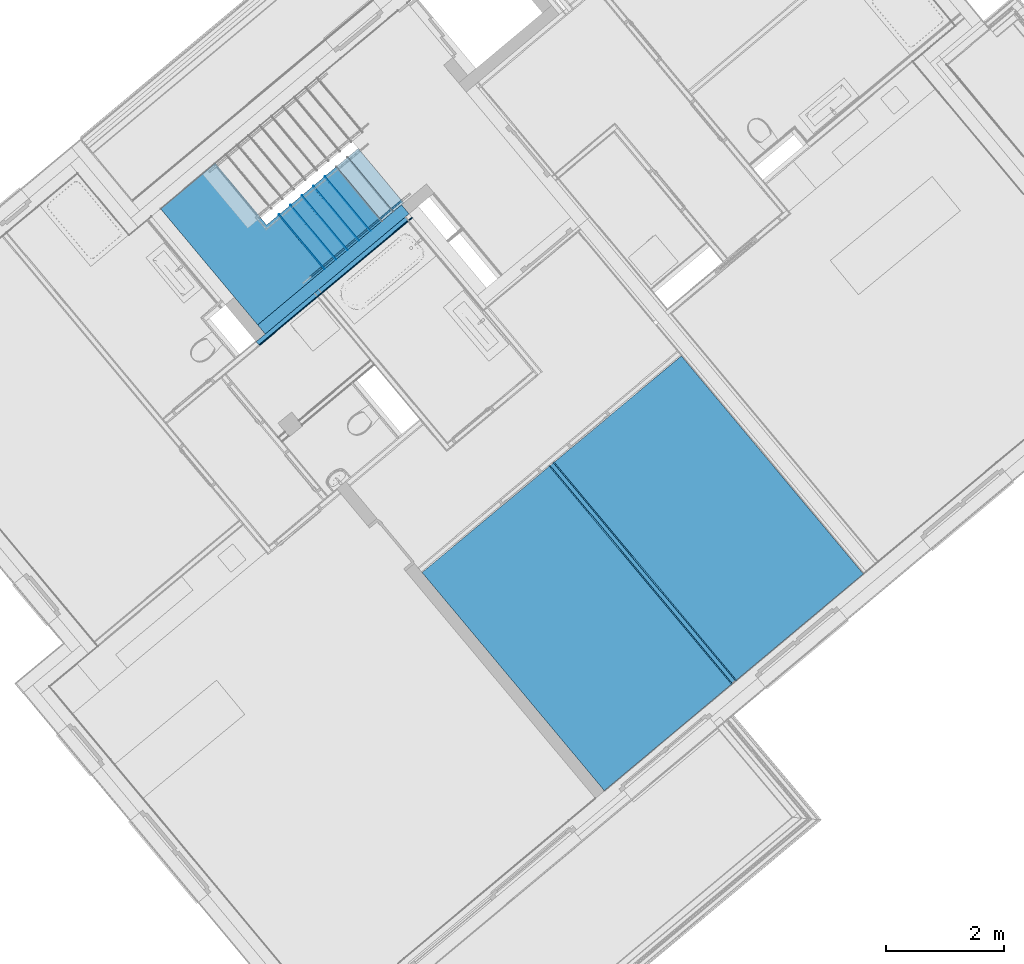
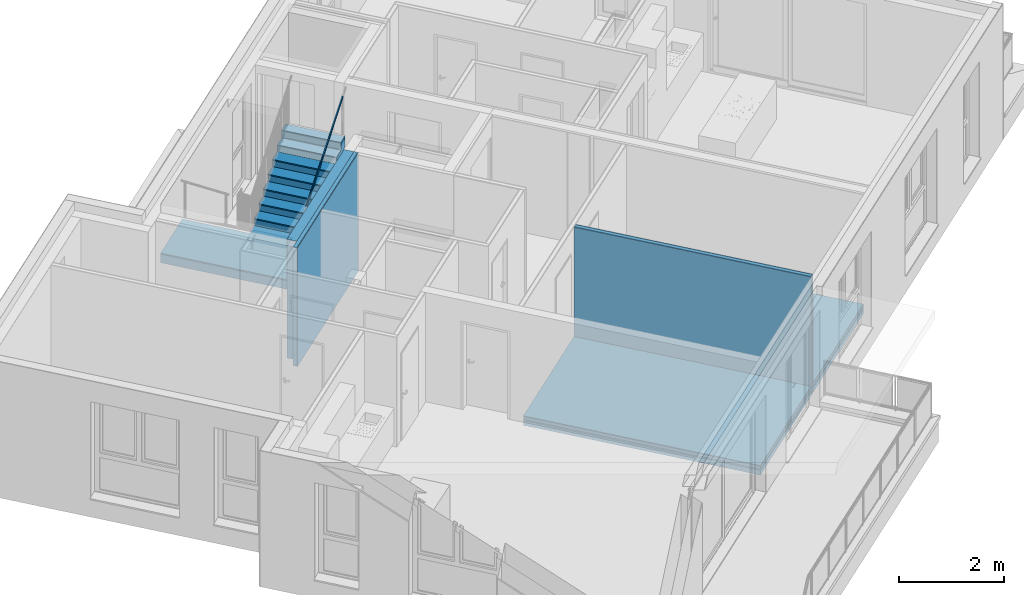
# One storey, part 25 of 50: 28 building element parts, 6 elements without a shape of their own.
"""IFC4 building model written with IfcOpenShell, lengths in metres."""

from ifc_helpers import new_model, entity, si_unit, converted_unit, derived_unit, direction, frame, origin_with_axes, place, context, subcontext, project, spatial, polygons, material, type_object, element, aggregate, save


model = new_model("IFC4")

# Units and contexts
model_context = context("Model", 3, precision=1e-05, world=origin_with_axes(), true_north=direction((0.0, 1.0)))
body_context = subcontext(model_context, "Body", "Model", "MODEL_VIEW")
ifc_project = project(units=[si_unit("LENGTHUNIT", "METRE"), si_unit("AREAUNIT", "SQUARE_METRE"), si_unit("VOLUMEUNIT", "CUBIC_METRE"), converted_unit("PLANEANGLEUNIT", "DEGREE", entity("IfcPlaneAngleMeasure", 0.0174532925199), si_unit("PLANEANGLEUNIT", "RADIAN"), dimensions=[0, 0, 0, 0, 0, 0, 0]), converted_unit("TIMEUNIT", "Year", entity("IfcTimeMeasure", 31556926.0), si_unit("TIMEUNIT", "SECOND"), dimensions=[0, 0, 1, 0, 0, 0, 0]), si_unit("MASSUNIT", "GRAM", prefix="KILO"), si_unit("THERMODYNAMICTEMPERATUREUNIT", "DEGREE_CELSIUS"), si_unit("LUMINOUSINTENSITYUNIT", "LUMEN"), si_unit("ENERGYUNIT", "JOULE", prefix="MEGA"), derived_unit("THERMALCONDUCTANCEUNIT", [(si_unit("POWERUNIT", "WATT"), 1), (si_unit("LENGTHUNIT", "METRE"), -1), (si_unit("THERMODYNAMICTEMPERATUREUNIT", "KELVIN"), -1)]), derived_unit("SPECIFICHEATCAPACITYUNIT", [(si_unit("ENERGYUNIT", "JOULE"), 1), (si_unit("MASSUNIT", "GRAM", prefix="KILO"), -1), (si_unit("THERMODYNAMICTEMPERATUREUNIT", "KELVIN"), -1)]), derived_unit("MASSDENSITYUNIT", [(si_unit("MASSUNIT", "GRAM", prefix="KILO"), 1), (si_unit("VOLUMEUNIT", "CUBIC_METRE"), -1)])], contexts=[model_context])

# Site, building, storey
site_placement = place(None, frame((-0.00153261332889, -0.00661245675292, 0.0), z_axis=(0.0, 0.0, 1.0), x_axis=(1.0, 0.0, 0.0)))
site = spatial("IfcSite", under=ifc_project, at=site_placement, Name="Site", CompositionType="ELEMENT")
building_placement = place(site_placement, origin_with_axes())
building = spatial("IfcBuilding", under=site, at=building_placement, Name="Building", CompositionType="ELEMENT")
storey_placement = place(building_placement, frame((0.0, 0.0, 2.74), z_axis=(0.0, 0.0, 1.0), x_axis=(1.0, 0.0, 0.0)))
storey = spatial("IfcBuildingStorey", under=building, at=storey_placement, Name="OG1", CompositionType="ELEMENT", Elevation=2.74)

# Wall, building element parts
wall_type_1 = type_object("IfcWallType", Name="LB 9,0 cm einfache Vorsatzschale + STB 290", PredefinedType="NOTDEFINED")
wall_1_placement = place(storey_placement, frame((0.242882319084, 22.5994599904, 0.0), z_axis=(0.0, 0.0, 1.0), x_axis=(-0.767365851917, -0.641209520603, 0.0)))
wall_1 = element("IfcWall", 1, at=wall_1_placement, inside=storey, type_object=wall_type_1, Name="Wand-003", PredefinedType="NOTDEFINED")
ifc_material_1 = material(Name="Gipskarton")
building_element_part_1_placement = place(wall_1_placement, origin_with_axes())
building_element_part_1 = element("IfcBuildingElementPart", 2, at=building_element_part_1_placement, material=ifc_material_1, Name="Gipskarton", PredefinedType="NOTDEFINED", context=body_context, shape_type="Tessellation", body=[
    polygons([(3.37052385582, 0.275, 0.0), (0.0, 0.275, 0.0), (0.0, 0.29, 0.0), (3.37052385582, 0.29, 0.0), (3.37052385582, 0.275, 2.76), (0.0, 0.275, 2.76), (0.0, 0.29, 2.76), (3.37052385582, 0.29, 2.76)], [[[1, 2, 3, 4]], [[5, 6, 2, 1]], [[3, 2, 6, 7]], [[4, 3, 7, 8]], [[4, 8, 5, 1]], [[8, 7, 6, 5]]], closed=True),
])
ifc_material_2 = material(Name="Mineralwolle weich")
building_element_part_2_placement = place(wall_1_placement, origin_with_axes())
building_element_part_2 = element("IfcBuildingElementPart", 3, at=building_element_part_2_placement, material=ifc_material_2, Name="Mineralwolle weich", PredefinedType="NOTDEFINED", context=body_context, shape_type="Tessellation", body=[
    polygons([(3.37052385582, 0.2, 0.0), (0.0, 0.2, 0.0), (0.0, 0.275, 0.0), (3.37052385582, 0.275, 0.0), (3.37052385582, 0.2, 2.76), (0.0, 0.2, 2.76), (0.0, 0.275, 2.76), (3.37052385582, 0.275, 2.76)], [[[1, 2, 3, 4]], [[5, 6, 2, 1]], [[3, 2, 6, 7]], [[4, 3, 7, 8]], [[4, 8, 5, 1]], [[8, 7, 6, 5]]], closed=True),
])
ifc_material_3 = material(Name="Stahlbeton Wand")
building_element_part_3_placement = place(wall_1_placement, origin_with_axes())
building_element_part_3 = element("IfcBuildingElementPart", 4, at=building_element_part_3_placement, material=ifc_material_3, Name="Stahlbeton Wand", PredefinedType="NOTDEFINED", context=body_context, shape_type="Tessellation", body=[
    polygons([(3.17052385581, 0.0, 0.0), (0.0, 0.0, 0.0), (0.0, 0.2, 0.0), (3.17052385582, 0.2, 0.0), (3.17052385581, 0.0, 2.76), (0.0, 0.0, 2.76), (0.0, 0.2, 2.76), (3.17052385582, 0.2, 2.76)], [[[1, 2, 3, 4]], [[5, 6, 2, 1]], [[3, 2, 6, 7]], [[4, 3, 7, 8]], [[4, 8, 5, 1]], [[8, 7, 6, 5]]], closed=True),
])
aggregate(wall_1, [building_element_part_1, building_element_part_2, building_element_part_3])

wall_type_2 = type_object("IfcWallType", Name="IW LB 01 Leichtbautrennwand einfach 10,5 cm 105", PredefinedType="NOTDEFINED")
wall_2_placement = place(storey_placement, frame((2.82455205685, 18.2460213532, 0.0), z_axis=(0.0, 0.0, 1.0), x_axis=(0.641209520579, -0.767365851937, 0.0)))
wall_2 = element("IfcWall", 5, at=wall_2_placement, inside=storey, type_object=wall_type_2, Name="Wand-012", PredefinedType="NOTDEFINED")
building_element_part_4_placement = place(wall_2_placement, origin_with_axes())
building_element_part_4 = element("IfcBuildingElementPart", 6, at=building_element_part_4_placement, material=ifc_material_1, Name="Gipskarton", PredefinedType="NOTDEFINED", context=body_context, shape_type="Tessellation", body=[
    polygons([(4.80588291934, 0.0, 2.76), (0.0, 0.0, 2.76), (0.0, -0.015, 2.76), (4.80589268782, -0.015, 2.76), (4.80588291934, 0.0, 0.0), (0.0, 0.0, 0.0), (0.0, -0.015, 0.0), (4.80589268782, -0.015, 0.0)], [[[1, 2, 3, 4]], [[5, 6, 2, 1]], [[3, 2, 6, 7]], [[4, 3, 7, 8]], [[4, 8, 5, 1]], [[8, 7, 6, 5]]], closed=True),
])
building_element_part_5_placement = place(wall_2_placement, origin_with_axes())
building_element_part_5 = element("IfcBuildingElementPart", 7, at=building_element_part_5_placement, material=ifc_material_2, Name="Mineralwolle weich", PredefinedType="NOTDEFINED", context=body_context, shape_type="Tessellation", body=[
    polygons([(4.80589268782, -0.015, 2.76), (0.0, -0.015, 2.76), (0.0, -0.09, 2.76), (4.80594153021, -0.09, 2.76), (4.80589268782, -0.015, 0.0), (0.0, -0.015, 0.0), (0.0, -0.09, 0.0), (4.80594153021, -0.09, 0.0)], [[[1, 2, 3, 4]], [[5, 6, 2, 1]], [[3, 2, 6, 7]], [[4, 3, 7, 8]], [[4, 8, 5, 1]], [[8, 7, 6, 5]]], closed=True),
])
building_element_part_6_placement = place(wall_2_placement, origin_with_axes())
building_element_part_6 = element("IfcBuildingElementPart", 8, at=building_element_part_6_placement, material=ifc_material_1, Name="Gipskarton", PredefinedType="NOTDEFINED", context=body_context, shape_type="Tessellation", body=[
    polygons([(4.80594153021, -0.09, 2.76), (0.0, -0.09, 2.76), (0.0, -0.105, 2.76), (4.80595129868, -0.105, 2.76), (4.80594153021, -0.09, 0.0), (0.0, -0.09, 0.0), (0.0, -0.105, 0.0), (4.80595129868, -0.105, 0.0)], [[[1, 2, 3, 4]], [[5, 6, 2, 1]], [[3, 2, 6, 7]], [[4, 3, 7, 8]], [[4, 8, 5, 1]], [[8, 7, 6, 5]]], closed=True),
])
aggregate(wall_2, [building_element_part_4, building_element_part_5, building_element_part_6])

# Covering, building element parts
covering_type = type_object("IfcCoveringType", Name="DE 01 Decke Wohnung/Wohnung Parkett 220", PredefinedType="NOTDEFINED")
covering_1_placement = place(storey_placement, frame((2.82455205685, 18.2460213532, 0.22), z_axis=(0.0, 0.0, 1.0), x_axis=(1.0, 0.0, 0.0)))
covering_1 = element("IfcCovering", 9, at=covering_1_placement, inside=storey, type_object=covering_type, Name="Decke-006", PredefinedType="NOTDEFINED")
ifc_material_4 = material(Name="Parkett")
building_element_part_7_placement = place(covering_1_placement, origin_with_axes())
building_element_part_7 = element("IfcBuildingElementPart", 10, at=building_element_part_7_placement, material=ifc_material_4, Name="Parkett", PredefinedType="NOTDEFINED", context=body_context, shape_type="Tessellation", body=[
    polygons([(3.08157788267, -3.68787044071, -0.015), (3.08157788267, -3.68787044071, 0.0), (0.0, 0.0, 0.0), (0.0, 0.0, -0.015), (5.22996853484, -1.89030181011, -0.015), (5.22996853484, -1.89030181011, 0.0), (2.15130959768, 1.79763041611, 0.0), (2.15130959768, 1.79763041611, -0.015)], [[[1, 2, 3, 4]], [[5, 6, 2, 1]], [[3, 2, 6, 7]], [[4, 3, 7, 8]], [[4, 8, 5, 1]], [[8, 7, 6, 5]]], closed=True),
])
ifc_material_5 = material(Name="Estrich")
building_element_part_8_placement = place(covering_1_placement, origin_with_axes())
building_element_part_8 = element("IfcBuildingElementPart", 11, at=building_element_part_8_placement, material=ifc_material_5, Name="Estrich", PredefinedType="NOTDEFINED", context=body_context, shape_type="Tessellation", body=[
    polygons([(3.08157788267, -3.68787044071, -0.08), (3.08157788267, -3.68787044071, -0.015), (0.0, 0.0, -0.015), (0.0, 0.0, -0.08), (5.22996853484, -1.89030181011, -0.08), (5.22996853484, -1.89030181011, -0.015), (2.15130959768, 1.79763041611, -0.015), (2.15130959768, 1.79763041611, -0.08)], [[[1, 2, 3, 4]], [[5, 6, 2, 1]], [[3, 2, 6, 7]], [[4, 3, 7, 8]], [[4, 8, 5, 1]], [[8, 7, 6, 5]]], closed=True),
])
ifc_material_6 = material(Name="Trittschalldämmung")
building_element_part_9_placement = place(covering_1_placement, origin_with_axes())
building_element_part_9 = element("IfcBuildingElementPart", 12, at=building_element_part_9_placement, material=ifc_material_6, Name="Trittschalldämmung", PredefinedType="NOTDEFINED", context=body_context, shape_type="Tessellation", body=[
    polygons([(3.08157788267, -3.68787044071, -0.11), (3.08157788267, -3.68787044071, -0.08), (0.0, 0.0, -0.08), (0.0, 0.0, -0.11), (5.22996853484, -1.89030181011, -0.11), (5.22996853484, -1.89030181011, -0.08), (2.15130959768, 1.79763041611, -0.08), (2.15130959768, 1.79763041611, -0.11)], [[[1, 2, 3, 4]], [[5, 6, 2, 1]], [[3, 2, 6, 7]], [[4, 3, 7, 8]], [[4, 8, 5, 1]], [[8, 7, 6, 5]]], closed=True),
])
ifc_material_7 = material(Name="Schüttung")
building_element_part_10_placement = place(covering_1_placement, origin_with_axes())
building_element_part_10 = element("IfcBuildingElementPart", 13, at=building_element_part_10_placement, material=ifc_material_7, Name="Schüttung", PredefinedType="NOTDEFINED", context=body_context, shape_type="Tessellation", body=[
    polygons([(0.0, 0.0, -0.22), (3.08157788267, -3.68787044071, -0.22), (3.08157788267, -3.68787044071, -0.11), (0.0, 0.0, -0.11), (2.15130959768, 1.79763041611, -0.22), (5.22996853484, -1.89030181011, -0.22), (5.22996853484, -1.89030181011, -0.11), (2.15130959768, 1.79763041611, -0.11)], [[[1, 2, 3, 4]], [[1, 5, 6, 2]], [[2, 6, 7, 3]], [[4, 3, 7, 8]], [[5, 1, 4, 8]], [[6, 5, 8, 7]]], closed=True),
])
aggregate(covering_1, [building_element_part_7, building_element_part_8, building_element_part_9, building_element_part_10])

covering_2_placement = place(storey_placement, frame((2.74397864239, 18.1786943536, 0.22), z_axis=(0.0, 0.0, 1.0), x_axis=(1.0, 0.0, 0.0)))
covering_2 = element("IfcCovering", 14, at=covering_2_placement, inside=storey, type_object=covering_type, Name="Decke-007", PredefinedType="NOTDEFINED")
building_element_part_11_placement = place(covering_2_placement, origin_with_axes())
building_element_part_11 = element("IfcBuildingElementPart", 15, at=building_element_part_11_placement, material=ifc_material_4, Name="Parkett", PredefinedType="NOTDEFINED", context=body_context, shape_type="Tessellation", body=[
    polygons([(-2.15304181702, -1.79907785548, -0.015), (-2.15304181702, -1.79907785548, 0.0), (0.0, 0.0, 0.0), (0.0, 0.0, -0.015), (0.929751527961, -5.48840289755, -0.015), (0.929751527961, -5.48840289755, 0.0), (3.08162172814, -3.68792291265, 0.0), (3.08162172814, -3.68792291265, -0.015)], [[[1, 2, 3, 4]], [[5, 6, 2, 1]], [[3, 2, 6, 7]], [[4, 3, 7, 8]], [[4, 8, 5, 1]], [[8, 7, 6, 5]]], closed=True),
])
building_element_part_12_placement = place(covering_2_placement, origin_with_axes())
building_element_part_12 = element("IfcBuildingElementPart", 16, at=building_element_part_12_placement, material=ifc_material_5, Name="Estrich", PredefinedType="NOTDEFINED", context=body_context, shape_type="Tessellation", body=[
    polygons([(-2.15304181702, -1.79907785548, -0.08), (-2.15304181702, -1.79907785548, -0.015), (0.0, 0.0, -0.015), (0.0, 0.0, -0.08), (0.929751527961, -5.48840289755, -0.08), (0.929751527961, -5.48840289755, -0.015), (3.08162172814, -3.68792291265, -0.015), (3.08162172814, -3.68792291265, -0.08)], [[[1, 2, 3, 4]], [[5, 6, 2, 1]], [[3, 2, 6, 7]], [[4, 3, 7, 8]], [[4, 8, 5, 1]], [[8, 7, 6, 5]]], closed=True),
])
building_element_part_13_placement = place(covering_2_placement, origin_with_axes())
building_element_part_13 = element("IfcBuildingElementPart", 17, at=building_element_part_13_placement, material=ifc_material_6, Name="Trittschalldämmung", PredefinedType="NOTDEFINED", context=body_context, shape_type="Tessellation", body=[
    polygons([(-2.15304181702, -1.79907785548, -0.11), (-2.15304181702, -1.79907785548, -0.08), (0.0, 0.0, -0.08), (0.0, 0.0, -0.11), (0.929751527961, -5.48840289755, -0.11), (0.929751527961, -5.48840289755, -0.08), (3.08162172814, -3.68792291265, -0.08), (3.08162172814, -3.68792291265, -0.11)], [[[1, 2, 3, 4]], [[5, 6, 2, 1]], [[3, 2, 6, 7]], [[4, 3, 7, 8]], [[4, 8, 5, 1]], [[8, 7, 6, 5]]], closed=True),
])
building_element_part_14_placement = place(covering_2_placement, origin_with_axes())
building_element_part_14 = element("IfcBuildingElementPart", 18, at=building_element_part_14_placement, material=ifc_material_7, Name="Schüttung", PredefinedType="NOTDEFINED", context=body_context, shape_type="Tessellation", body=[
    polygons([(0.0, 0.0, -0.22), (-2.15304181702, -1.79907785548, -0.22), (-2.15304181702, -1.79907785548, -0.11), (0.0, 0.0, -0.11), (3.08162172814, -3.68792291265, -0.22), (0.929751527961, -5.48840289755, -0.22), (0.929751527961, -5.48840289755, -0.11), (3.08162172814, -3.68792291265, -0.11)], [[[1, 2, 3, 4]], [[1, 5, 6, 2]], [[2, 6, 7, 3]], [[4, 3, 7, 8]], [[5, 1, 4, 8]], [[6, 5, 8, 7]]], closed=True),
])
aggregate(covering_2, [building_element_part_11, building_element_part_12, building_element_part_13, building_element_part_14])

# Railing, building element part
railing_type = type_object("IfcRailingType", Name="Geländerart", PredefinedType="NOTDEFINED")
railing_placement = place(storey_placement, frame((-1.26480795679, 21.3396367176, 1.82058823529), z_axis=(0.0, 0.0, 1.0), x_axis=(1.0, 0.0, 0.0)))
railing = element("IfcRailing", 19, at=railing_placement, inside=storey, type_object=railing_type, Name="Geländer - 002", PredefinedType="NOTDEFINED")
ifc_material_8 = material(Name="BEKLEIDUNG")
building_element_part_15_placement = place(railing_placement, origin_with_axes())
building_element_part_15 = element("IfcBuildingElementPart", 20, at=building_element_part_15_placement, material=ifc_material_8, Name="BEKLEIDUNG", PredefinedType="NOTDEFINED", context=body_context, shape_type="Tessellation", body=[
    polygons([(-0.024045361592, 0.0287762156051, 0.9), (-0.0139891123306, 0.0371791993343, 0.878710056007), (1.53111960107, 1.32826925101, 2.11812182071), (1.52106335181, 1.31986626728, 2.13941176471), (-0.0400755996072, 0.0479603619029, 0.9), (-0.0300193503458, 0.0563633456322, 0.878710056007), (1.51508936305, 1.34745339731, 2.11812182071), (1.50503311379, 1.33905041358, 2.13941176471)], [[[1, 2, 3, 4]], [[1, 5, 6, 2]], [[2, 6, 7, 3]], [[4, 3, 7, 8]], [[5, 1, 4, 8]], [[6, 5, 8, 7]]], closed=True),
])
aggregate(railing, [building_element_part_15])

# Stair, building element parts
stair_type = type_object("IfcStairType", Name="Treppentyp", PredefinedType="NOTDEFINED")
stair_placement = place(storey_placement, frame((-0.972083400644, 24.9200947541, 0.05), z_axis=(0.0, 0.0, 1.0), x_axis=(1.0, 0.0, 0.0)))
stair = element("IfcStair", 21, at=stair_placement, inside=storey, type_object=stair_type, Name="Treppe - 001", PredefinedType="NOTDEFINED")
ifc_material_9 = material(Name="Stahlbeton Decke")
building_element_part_16_placement = place(stair_placement, origin_with_axes())
building_element_part_16 = element("IfcBuildingElementPart", 22, at=building_element_part_16_placement, material=ifc_material_9, Name="Stahlbeton Decke", PredefinedType="NOTDEFINED", context=body_context, shape_type="Tessellation", body=[
    polygons([(-0.0995859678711, -3.41907180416, 1.54558823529), (-0.0995859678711, -3.41907180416, 1.74558823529), (-1.21798601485, -4.3536048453, 1.74558823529), (-1.21798601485, -4.3536048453, 1.54558823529), (-0.869037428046, -2.49823278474, 1.74558823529), (-0.869037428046, -2.49823278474, 1.54558823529), (-1.06659845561, -2.66331440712, 1.74558823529), (-1.16916165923, -2.5405721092, 1.74558823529), (-1.18404787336, -2.55300972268, 1.74558823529), (-1.95345217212, -1.63213131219, 1.74558823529), (-2.85949147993, -2.38913738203, 1.74558823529), (-2.85949147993, -2.38913738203, 1.54558823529), (-1.93419043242, -1.61603796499, 1.54558823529), (-1.16478618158, -2.53691636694, 1.54558823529), (-1.16916165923, -2.5405721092, 1.54558823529), (-1.06659845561, -2.66331440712, 1.54558823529), (-1.16916165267, -2.54057211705, 1.56852941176), (-1.18404787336, -2.55300972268, 1.56852941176), (-1.95345217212, -1.63213131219, 1.56852941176), (-1.93419043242, -1.61603796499, 1.56852941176), (-1.16478618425, -2.53691636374, 1.56852941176)], [[[1, 2, 3, 4]], [[5, 2, 1, 6]], [[2, 5, 7, 8, 9, 10, 11, 3]], [[3, 11, 12, 4]], [[6, 1, 4, 12, 13, 14, 15, 16]], [[5, 6, 16, 7]], [[8, 7, 16, 15, 17]], [[8, 17, 18, 9]], [[18, 19, 10, 9]], [[13, 12, 11, 10, 19, 20]], [[14, 13, 20, 21]], [[21, 17, 15, 14]], [[20, 19, 18, 17, 21]]], closed=True),
])
building_element_part_17_placement = place(stair_placement, origin_with_axes())
building_element_part_17 = element("IfcBuildingElementPart", 23, at=building_element_part_17_placement, material=ifc_material_9, Name="Stahlbeton Decke", PredefinedType="NOTDEFINED", context=body_context, shape_type="Tessellation", body=[
    polygons([(1.12362509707, -2.39695883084, 2.64145231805), (1.18800462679, -2.34316341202, 2.70047192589), (1.25238415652, -2.2893679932, 2.75949153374), (1.25238415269, -2.28936798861, 2.985), (1.0785064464, -2.4346598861, 2.985), (1.0785064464, -2.4346598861, 2.80794117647), (0.885367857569, -2.59604614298, 2.80794117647), (0.885367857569, -2.59604614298, 2.63088235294), (0.692229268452, -2.75743239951, 2.63088235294), (0.692229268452, -2.75743239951, 2.45382352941), (0.499090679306, -2.918818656, 2.45382352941), (0.499090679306, -2.918818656, 2.27676470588), (0.305952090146, -3.08020491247, 2.27676470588), (0.305952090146, -3.08020491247, 2.09970588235), (0.112813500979, -3.24159116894, 2.09970588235), (0.112813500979, -3.24159116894, 1.92264705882), (-0.0803250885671, -3.40297742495, 1.92264705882), (-0.0803250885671, -3.40297742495, 1.74558823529), (-0.0995859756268, -3.41907178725, 1.74558823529), (-0.0995859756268, -3.41907178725, 1.54558823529), (-0.0717609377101, -3.39582123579, 1.54558823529), (-0.0673962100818, -3.39217407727, 1.54958957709), (-0.0352064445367, -3.36527636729, 1.57909938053), (-0.0030166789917, -3.33837865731, 1.60860918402), (0.0291730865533, -3.31148094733, 1.6381189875), (0.0613628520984, -3.28458323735, 1.66762879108), (0.0935526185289, -3.25768552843, 1.69713859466), (0.125742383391, -3.23078781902, 1.72664839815), (0.157932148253, -3.20389010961, 1.75615820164), (0.190121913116, -3.1769924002, 1.78566800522), (0.222311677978, -3.15009469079, 1.8151778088), (0.25450144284, -3.12319698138, 1.8446876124), (0.286691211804, -3.09629927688, 1.874197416), (0.351070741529, -3.04250385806, 1.93321702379), (0.415450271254, -2.98870843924, 1.99223663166), (0.479829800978, -2.93491302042, 2.05125623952), (0.544209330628, -2.88111760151, 2.11027584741), (0.608588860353, -2.82732218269, 2.16929545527), (0.672968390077, -2.77352676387, 2.22831506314), (0.73734791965, -2.71973134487, 2.28733467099), (0.801727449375, -2.66593592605, 2.34635427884), (0.8661069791, -2.61214050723, 2.40537388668), (0.930486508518, -2.55834508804, 2.46439349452), (0.994866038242, -2.50454966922, 2.52341310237), (1.05924556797, -2.4507542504, 2.58243271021), (0.418553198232, -1.42232438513, 2.70047192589), (0.354173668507, -1.47611980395, 2.64145231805), (0.482932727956, -1.36852896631, 2.75949153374), (0.482932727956, -1.36852896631, 2.985), (0.309055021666, -1.51382086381, 2.985), (0.309055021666, -1.51382086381, 2.80794117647), (0.115916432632, -1.67520712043, 2.80794117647), (0.115916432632, -1.67520712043, 2.63088235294), (-0.0772221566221, -1.8365933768, 2.63088235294), (-0.0772221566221, -1.8365933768, 2.45382352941), (-0.270360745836, -1.99797963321, 2.45382352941), (-0.270360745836, -1.99797963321, 2.27676470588), (-0.463499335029, -2.15936588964, 2.27676470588), (-0.463499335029, -2.15936588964, 2.09970588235), (-0.656637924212, -2.32075214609, 2.09970588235), (-0.656637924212, -2.32075214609, 1.92264705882), (-0.849776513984, -2.48213840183, 1.92264705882), (-0.849776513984, -2.48213840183, 1.74558823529), (-0.86903741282, -2.49823277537, 1.74558823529), (-0.869037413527, -2.49823277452, 1.54558823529), (-0.841212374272, -2.47498222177, 1.54558823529), (-0.815129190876, -2.50619720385, 1.54558823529), (-0.482569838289, -2.90418674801, 1.54558823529), (-0.430403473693, -2.96661670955, 1.54558823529), (-0.0978441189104, -3.36460625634, 1.54558823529), (-0.227569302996, -3.13506661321, 1.57909938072), (-0.163189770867, -3.08127119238, 1.63811898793), (-0.0988102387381, -3.02747577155, 1.69713859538), (-0.0344307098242, -2.97368035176, 1.75615820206), (0.0299488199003, -2.91988493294, 1.81517780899), (0.0943283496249, -2.86608951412, 1.87419741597), (-0.418380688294, -2.12166482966, 1.93321702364), (-0.290397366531, -2.40566999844, 1.8741974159), (-0.482760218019, -2.17546024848, 1.87419741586), (-0.35400115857, -2.06786941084, 1.99223663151), (-0.289621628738, -2.01407399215, 2.0512562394), (-0.225242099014, -1.96027857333, 2.11027584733), (-0.160862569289, -1.90648315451, 2.16929545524), (-0.0964830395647, -1.85268773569, 2.22831506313), (-0.0321035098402, -1.79889231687, 2.28733467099), (0.0322760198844, -1.74509689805, 2.34635427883), (0.0966555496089, -1.69130147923, 2.40537388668), (0.161035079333, -1.63750606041, 2.46439349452), (0.225414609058, -1.58371064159, 2.52341310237), (0.289794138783, -1.52991522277, 2.58243271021), (-0.804657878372, -2.44443735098, 1.57909938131), (-0.836847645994, -2.4713350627, 1.54958957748), (-0.514949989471, -2.20235795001, 1.84468761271), (-0.547139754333, -2.22925565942, 1.81517780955), (-0.579329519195, -2.25615336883, 1.78566800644), (-0.611519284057, -2.28305107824, 1.75615820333), (-0.64370904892, -2.30994878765, 1.72664840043), (-0.675898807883, -2.33684650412, 1.69713859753), (-0.708088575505, -2.36374421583, 1.66762879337), (-0.740278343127, -2.39064192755, 1.6381189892), (-0.77246811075, -2.41753963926, 1.60860918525), (-0.612295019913, -2.67464710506, 1.57909938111), (-0.452121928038, -2.93175456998, 1.54958957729), (-0.387742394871, -2.87795914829, 1.60860918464), (-0.323362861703, -2.82416372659, 1.66762879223), (-0.258983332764, -2.77036830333, 1.72664839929), (-0.19460380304, -2.71657288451, 1.78566800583), (-0.130224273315, -2.66277746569, 1.84468761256), (-0.354776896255, -2.45946541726, 1.81517780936), (-0.41915642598, -2.51326083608, 1.75615820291), (-0.483535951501, -2.56705625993, 1.69713859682), (-0.547915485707, -2.62085168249, 1.63811898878)], [[[1, 2, 3, 4, 5, 6, 7, 8, 9, 10, 11, 12, 13, 14, 15, 16, 17, 18, 19, 20, 21, 22, 23, 24, 25, 26, 27, 28, 29, 30, 31, 32, 33, 34, 35, 36, 37, 38, 39, 40, 41, 42, 43, 44, 45]], [[46, 2, 1, 47]], [[48, 3, 2, 46]], [[4, 3, 48, 49]], [[4, 49, 50, 5]], [[50, 51, 6, 5]], [[52, 7, 6, 51]], [[52, 53, 8, 7]], [[54, 9, 8, 53]], [[54, 55, 10, 9]], [[56, 11, 10, 55]], [[56, 57, 12, 11]], [[58, 13, 12, 57]], [[58, 59, 14, 13]], [[60, 15, 14, 59]], [[60, 61, 16, 15]], [[62, 17, 16, 61]], [[62, 63, 18, 17]], [[63, 64, 19, 18]], [[65, 20, 19, 64]], [[21, 20, 65, 66, 67, 68, 69, 70]], [[70, 22, 21]], [[71, 23, 22]], [[71, 24, 23]], [[72, 25, 24]], [[72, 26, 25]], [[73, 27, 26]], [[73, 28, 27]], [[74, 29, 28]], [[74, 30, 29]], [[75, 31, 30]], [[75, 32, 31]], [[76, 33, 32]], [[77, 34, 33, 76, 78, 79]], [[80, 35, 34, 77]], [[81, 36, 35, 80]], [[82, 37, 36, 81]], [[83, 38, 37, 82]], [[84, 39, 38, 83]], [[85, 40, 39, 84]], [[86, 41, 40, 85]], [[87, 42, 41, 86]], [[88, 43, 42, 87]], [[89, 44, 43, 88]], [[90, 45, 44, 89]], [[47, 1, 45, 90]], [[91, 92, 66, 65, 64, 63, 62, 61, 60, 59, 58, 57, 56, 55, 54, 53, 52, 51, 50, 49, 48, 46, 47, 90, 89, 88, 87, 86, 85, 84, 83, 82, 81, 80, 77, 79, 93, 94, 95, 96, 97, 98, 99, 100, 101]], [[67, 66, 92]], [[67, 92, 102, 103, 68]], [[69, 68, 103]], [[103, 71, 22, 70, 69]], [[104, 72, 24, 71]], [[105, 73, 26, 72]], [[106, 74, 28, 73]], [[74, 107, 75, 30]], [[108, 76, 32, 75]], [[108, 78, 76]], [[78, 93, 79]], [[102, 92, 91]], [[109, 94, 93]], [[109, 95, 94]], [[110, 96, 95]], [[110, 97, 96]], [[111, 98, 97]], [[111, 99, 98]], [[112, 100, 99]], [[112, 101, 100]], [[102, 91, 101]], [[103, 102, 71]], [[72, 104, 112]], [[71, 102, 104]], [[73, 105, 111]], [[112, 105, 72]], [[74, 106, 110]], [[73, 111, 106]], [[74, 110, 107]], [[75, 107, 109]], [[109, 108, 75]], [[109, 93, 78, 108]], [[95, 109, 107, 110]], [[111, 97, 110, 106]], [[99, 111, 105, 112]], [[102, 101, 112, 104]]], closed=True),
])
building_element_part_18_placement = place(stair_placement, origin_with_axes())
building_element_part_18 = element("IfcBuildingElementPart", 24, at=building_element_part_18_placement, material=ifc_material_8, Name="BEKLEIDUNG", PredefinedType="NOTDEFINED", context=body_context, shape_type="Tessellation", body=[
    polygons([(-0.0880754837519, -3.40945364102, 1.92264705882), (-0.0804018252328, -3.40304154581, 1.92264705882), (-0.849853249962, -2.48220252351, 1.92264705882), (-0.857526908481, -2.48861461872, 1.92264705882), (-0.0880754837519, -3.40945364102, 1.77058823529), (-0.0804018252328, -3.40304154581, 1.77058823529), (-0.849853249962, -2.48220252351, 1.77058823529), (-0.857526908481, -2.48861461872, 1.77058823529)], [[[1, 2, 3, 4]], [[1, 5, 6, 2]], [[2, 6, 7, 3]], [[4, 3, 7, 8]], [[5, 1, 4, 8]], [[6, 5, 8, 7]]], closed=True),
])
building_element_part_19_placement = place(stair_placement, origin_with_axes())
building_element_part_19 = element("IfcBuildingElementPart", 25, at=building_element_part_19_placement, material=ifc_material_8, Name="BEKLEIDUNG", PredefinedType="NOTDEFINED", context=body_context, shape_type="Tessellation", body=[
    polygons([(0.105063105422, -3.24806738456, 2.09970588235), (0.112736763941, -3.24165528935, 2.09970588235), (-0.656714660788, -2.32081626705, 2.09970588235), (-0.664388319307, -2.32722836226, 2.09970588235), (0.105063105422, -3.24806738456, 1.94764705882), (0.112736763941, -3.24165528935, 1.94764705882), (-0.656714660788, -2.32081626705, 1.94764705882), (-0.664388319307, -2.32722836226, 1.94764705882)], [[[1, 2, 3, 4]], [[1, 5, 6, 2]], [[2, 6, 7, 3]], [[4, 3, 7, 8]], [[5, 1, 4, 8]], [[6, 5, 8, 7]]], closed=True),
])
building_element_part_20_placement = place(stair_placement, origin_with_axes())
building_element_part_20 = element("IfcBuildingElementPart", 26, at=building_element_part_20_placement, material=ifc_material_8, Name="BEKLEIDUNG", PredefinedType="NOTDEFINED", context=body_context, shape_type="Tessellation", body=[
    polygons([(0.298201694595, -3.0866811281, 2.27676470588), (0.305875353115, -3.08026903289, 2.27676470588), (-0.463576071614, -2.1594300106, 2.27676470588), (-0.471249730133, -2.1658421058, 2.27676470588), (0.298201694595, -3.0866811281, 2.12470588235), (0.305875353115, -3.08026903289, 2.12470588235), (-0.463576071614, -2.1594300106, 2.12470588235), (-0.471249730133, -2.1658421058, 2.12470588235)], [[[1, 2, 3, 4]], [[1, 5, 6, 2]], [[2, 6, 7, 3]], [[4, 3, 7, 8]], [[5, 1, 4, 8]], [[6, 5, 8, 7]]], closed=True),
])
building_element_part_21_placement = place(stair_placement, origin_with_axes())
building_element_part_21 = element("IfcBuildingElementPart", 27, at=building_element_part_21_placement, material=ifc_material_8, Name="BEKLEIDUNG", PredefinedType="NOTDEFINED", context=body_context, shape_type="Tessellation", body=[
    polygons([(0.491340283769, -2.92529487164, 2.45382352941), (0.499013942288, -2.91888277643, 2.45382352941), (-0.270437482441, -1.99804375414, 2.45382352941), (-0.27811114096, -2.00445584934, 2.45382352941), (0.491340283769, -2.92529487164, 2.30176470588), (0.499013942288, -2.91888277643, 2.30176470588), (-0.270437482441, -1.99804375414, 2.30176470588), (-0.27811114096, -2.00445584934, 2.30176470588)], [[[1, 2, 3, 4]], [[1, 5, 6, 2]], [[2, 6, 7, 3]], [[4, 3, 7, 8]], [[5, 1, 4, 8]], [[6, 5, 8, 7]]], closed=True),
])
building_element_part_22_placement = place(stair_placement, origin_with_axes())
building_element_part_22 = element("IfcBuildingElementPart", 28, at=building_element_part_22_placement, material=ifc_material_8, Name="BEKLEIDUNG", PredefinedType="NOTDEFINED", context=body_context, shape_type="Tessellation", body=[
    polygons([(0.684478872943, -2.76390861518, 2.63088235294), (0.692152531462, -2.75749651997, 2.63088235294), (-0.0772988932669, -1.83665749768, 2.63088235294), (-0.084972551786, -1.84306959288, 2.63088235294), (0.684478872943, -2.76390861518, 2.47882352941), (0.692152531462, -2.75749651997, 2.47882352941), (-0.0772988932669, -1.83665749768, 2.47882352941), (-0.084972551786, -1.84306959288, 2.47882352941)], [[[1, 2, 3, 4]], [[1, 5, 6, 2]], [[2, 6, 7, 3]], [[4, 3, 7, 8]], [[5, 1, 4, 8]], [[6, 5, 8, 7]]], closed=True),
])
building_element_part_23_placement = place(stair_placement, origin_with_axes())
building_element_part_23 = element("IfcBuildingElementPart", 29, at=building_element_part_23_placement, material=ifc_material_8, Name="BEKLEIDUNG", PredefinedType="NOTDEFINED", context=body_context, shape_type="Tessellation", body=[
    polygons([(-2.85949147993, -2.38913737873, 1.74558823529), (-1.2179860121, -4.3536048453, 1.74558823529), (-1.2179860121, -4.3536048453, 1.77058823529), (-2.85949147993, -2.38913737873, 1.77058823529), (-1.93419043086, -1.6160379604, 1.74558823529), (-1.16478613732, -2.53691636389, 1.74558823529), (-1.16916165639, -2.54057210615, 1.74558823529), (-1.06659841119, -2.66331440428, 1.74558823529), (-1.06217597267, -2.65961903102, 1.74558823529), (-0.849853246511, -2.48220251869, 1.74558823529), (-0.080401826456, -3.40304153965, 1.74558823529), (-0.292724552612, -3.58045805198, 1.74558823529), (-0.292724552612, -3.58045805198, 1.77058823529), (-0.080401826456, -3.40304153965, 1.77058823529), (-0.849853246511, -2.48220251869, 1.77058823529), (-1.06217597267, -2.65961903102, 1.77058823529), (-1.06659841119, -2.66331440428, 1.77058823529), (-1.16916165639, -2.54057210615, 1.77058823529), (-1.16478613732, -2.53691636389, 1.77058823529), (-1.93419043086, -1.6160379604, 1.77058823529)], [[[1, 2, 3, 4]], [[1, 5, 6, 7, 8, 9, 10, 11, 12, 2]], [[2, 12, 13, 3]], [[4, 3, 13, 14, 15, 16, 17, 18, 19, 20]], [[5, 1, 4, 20]], [[6, 5, 20, 19]], [[7, 6, 19, 18]], [[8, 7, 18, 17]], [[9, 8, 17, 16]], [[10, 9, 16, 15]], [[11, 10, 15, 14]], [[12, 11, 14, 13]]], closed=True),
])
building_element_part_24_placement = place(stair_placement, origin_with_axes())
building_element_part_24 = element("IfcBuildingElementPart", 30, at=building_element_part_24_placement, material=ifc_material_8, Name="BEKLEIDUNG", PredefinedType="NOTDEFINED", context=body_context, shape_type="Tessellation", body=[
    polygons([(-0.869037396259, -2.49823276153, 1.92264705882), (-0.0995859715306, -3.41907178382, 1.92264705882), (-0.0995859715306, -3.41907178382, 1.94764705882), (-0.869037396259, -2.49823276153, 1.94764705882), (-0.656714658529, -2.32081626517, 1.92264705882), (0.112736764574, -3.24165528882, 1.92264705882), (0.112736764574, -3.24165528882, 1.94764705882), (-0.656714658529, -2.32081626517, 1.94764705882)], [[[1, 2, 3, 4]], [[1, 5, 6, 2]], [[2, 6, 7, 3]], [[4, 3, 7, 8]], [[5, 1, 4, 8]], [[6, 5, 8, 7]]], closed=True),
])
building_element_part_25_placement = place(stair_placement, origin_with_axes())
building_element_part_25 = element("IfcBuildingElementPart", 31, at=building_element_part_25_placement, material=ifc_material_8, Name="BEKLEIDUNG", PredefinedType="NOTDEFINED", context=body_context, shape_type="Tessellation", body=[
    polygons([(-0.675898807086, -2.33684650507, 2.09970588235), (0.093552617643, -3.25768552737, 2.09970588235), (0.093552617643, -3.25768552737, 2.12470588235), (-0.675898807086, -2.33684650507, 2.12470588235), (-0.463576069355, -2.15943000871, 2.09970588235), (0.305875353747, -3.08026903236, 2.09970588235), (0.305875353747, -3.08026903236, 2.12470588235), (-0.463576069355, -2.15943000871, 2.12470588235)], [[[1, 2, 3, 4]], [[1, 5, 6, 2]], [[2, 6, 7, 3]], [[4, 3, 7, 8]], [[5, 1, 4, 8]], [[6, 5, 8, 7]]], closed=True),
])
building_element_part_26_placement = place(stair_placement, origin_with_axes())
building_element_part_26 = element("IfcBuildingElementPart", 32, at=building_element_part_26_placement, material=ifc_material_8, Name="BEKLEIDUNG", PredefinedType="NOTDEFINED", context=body_context, shape_type="Tessellation", body=[
    polygons([(-0.482760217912, -2.17546024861, 2.27676470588), (0.286691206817, -3.09629927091, 2.27676470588), (0.286691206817, -3.09629927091, 2.30176470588), (-0.482760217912, -2.17546024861, 2.30176470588), (-0.270437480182, -1.99804375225, 2.27676470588), (0.499013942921, -2.9188827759, 2.27676470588), (0.499013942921, -2.9188827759, 2.30176470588), (-0.270437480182, -1.99804375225, 2.30176470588)], [[[1, 2, 3, 4]], [[1, 5, 6, 2]], [[2, 6, 7, 3]], [[4, 3, 7, 8]], [[5, 1, 4, 8]], [[6, 5, 8, 7]]], closed=True),
])
building_element_part_27_placement = place(stair_placement, origin_with_axes())
building_element_part_27 = element("IfcBuildingElementPart", 33, at=building_element_part_27_placement, material=ifc_material_8, Name="BEKLEIDUNG", PredefinedType="NOTDEFINED", context=body_context, shape_type="Tessellation", body=[
    polygons([(-0.289621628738, -2.01407399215, 2.45382352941), (0.47982979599, -2.93491301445, 2.45382352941), (0.47982979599, -2.93491301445, 2.47882352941), (-0.289621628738, -2.01407399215, 2.47882352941), (-0.0772988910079, -1.83665749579, 2.45382352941), (0.692152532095, -2.75749651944, 2.45382352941), (0.692152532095, -2.75749651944, 2.47882352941), (-0.0772988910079, -1.83665749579, 2.47882352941)], [[[1, 2, 3, 4]], [[1, 5, 6, 2]], [[2, 6, 7, 3]], [[4, 3, 7, 8]], [[5, 1, 4, 8]], [[6, 5, 8, 7]]], closed=True),
])
building_element_part_28_placement = place(stair_placement, origin_with_axes())
building_element_part_28 = element("IfcBuildingElementPart", 34, at=building_element_part_28_placement, material=ifc_material_8, Name="BEKLEIDUNG", PredefinedType="NOTDEFINED", context=body_context, shape_type="Tessellation", body=[
    polygons([(-0.0964830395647, -1.85268773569, 2.63088235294), (0.672968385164, -2.77352675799, 2.63088235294), (0.672968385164, -2.77352675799, 2.65588235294), (-0.0964830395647, -1.85268773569, 2.65588235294), (0.115839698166, -1.67527123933, 2.63088235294), (0.885291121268, -2.59611026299, 2.63088235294), (0.885291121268, -2.59611026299, 2.65588235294), (0.115839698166, -1.67527123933, 2.65588235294)], [[[1, 2, 3, 4]], [[1, 5, 6, 2]], [[2, 6, 7, 3]], [[4, 3, 7, 8]], [[5, 1, 4, 8]], [[6, 5, 8, 7]]], closed=True),
])
aggregate(stair, [building_element_part_16, building_element_part_17, building_element_part_18, building_element_part_19, building_element_part_20, building_element_part_21, building_element_part_22, building_element_part_23, building_element_part_24, building_element_part_25, building_element_part_26, building_element_part_27, building_element_part_28])

save(model, "model.ifc")
